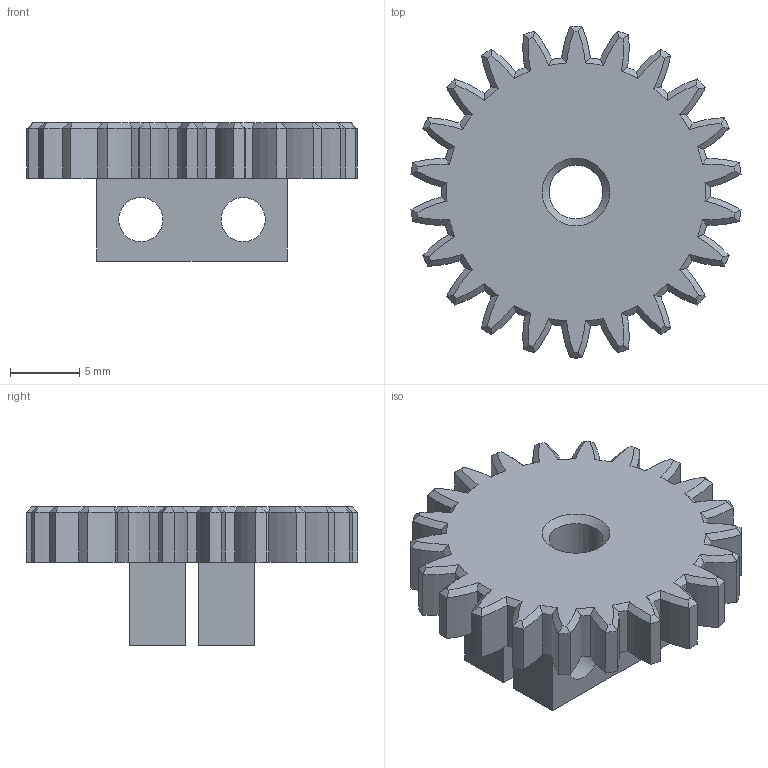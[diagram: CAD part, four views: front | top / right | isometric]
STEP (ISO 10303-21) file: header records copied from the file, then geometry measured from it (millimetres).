
FILE_DESCRIPTION(/* description */ (''),/* implementation_level */ '2;1');
FILE_NAME(/* name */ '\\192.168.3.8\kumagai\Develop\CAD\NakataOmni\DriveUnitR3\PlanetaryGear_Output.stp',/* time_stamp */ '2024-05-21T08:00:03+09:00',/* author */ ('kumagai'),/* organization */ (''),/* preprocessor_version */ 'ST-DEVELOPER v19',/* originating_system */ 'Autodesk Inventor 2023',/* authorisation */ '');
FILE_SCHEMA (('AUTOMOTIVE_DESIGN { 1 0 10303 214 3 1 1 }'));
Length unit declared in the file: millimetre
Products named in the file (1): 平歯車1
Bounding box: 23.86 x 24 x 10 mm (x, y, z)
Volume: 1933 mm3; surface area: 1839.9 mm2
Topology: 1 solids, 1 shells, 196 faces, 493 edges, 299 vertices
Faces by surface type: cylinder 93, cone 89, plane 14
Full cylindrical faces by diameter (mm): 3.2 x4, 3.9 x1
Entity records: 6055 total; most frequent: CARTESIAN_POINT 1253, DIRECTION 1078, ORIENTED_EDGE 986, EDGE_CURVE 493, AXIS2_PLACEMENT_3D 476, VERTEX_POINT 299, CIRCLE 279, EDGE_LOOP 206
